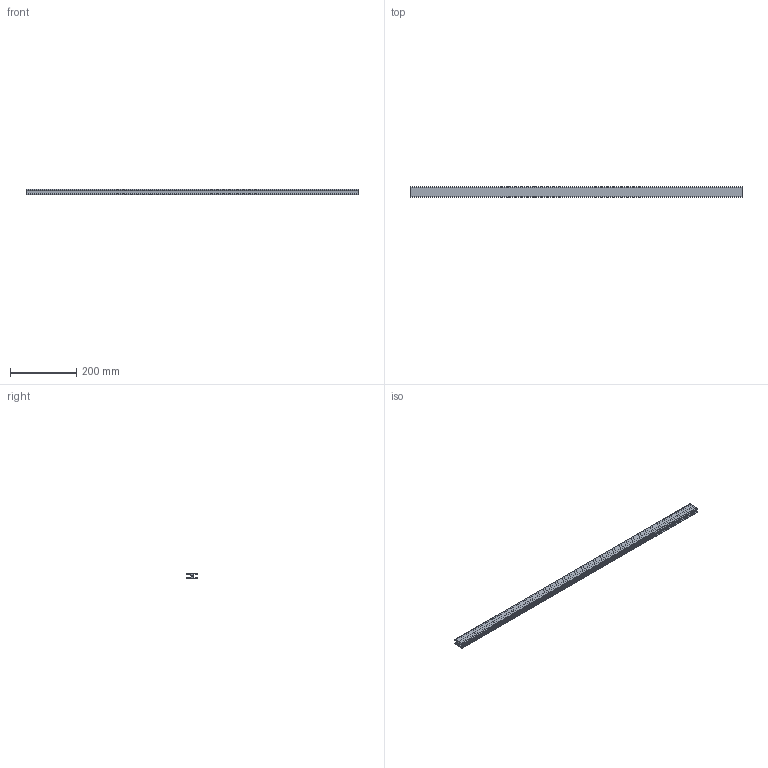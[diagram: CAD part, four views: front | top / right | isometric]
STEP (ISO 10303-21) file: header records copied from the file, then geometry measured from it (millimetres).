
FILE_DESCRIPTION (( 'STEP AP214' ), '1' );
FILE_NAME ('10267_KLE_32x18.STEP', '2017-02-10T09:27:40', ( '' ), ( '' ), 'SwSTEP 2.0', 'SolidWorks 2016', '' );
FILE_SCHEMA (( 'AUTOMOTIVE_DESIGN' ));
Length unit declared in the file: millimetre
Products named in the file (1): 10267_KLE_32x18
Bounding box: 1000 x 32 x 18 mm (x, y, z)
Volume: 250082.8 mm3; surface area: 194080 mm2
Topology: 1 solids, 1 shells, 52 faces, 150 edges, 100 vertices
Faces by surface type: plane 32, cylinder 20
Entity records: 1752 total; most frequent: CARTESIAN_POINT 303, ORIENTED_EDGE 300, DIRECTION 296, EDGE_CURVE 150, LINE 110, VECTOR 110, VERTEX_POINT 100, AXIS2_PLACEMENT_3D 93
